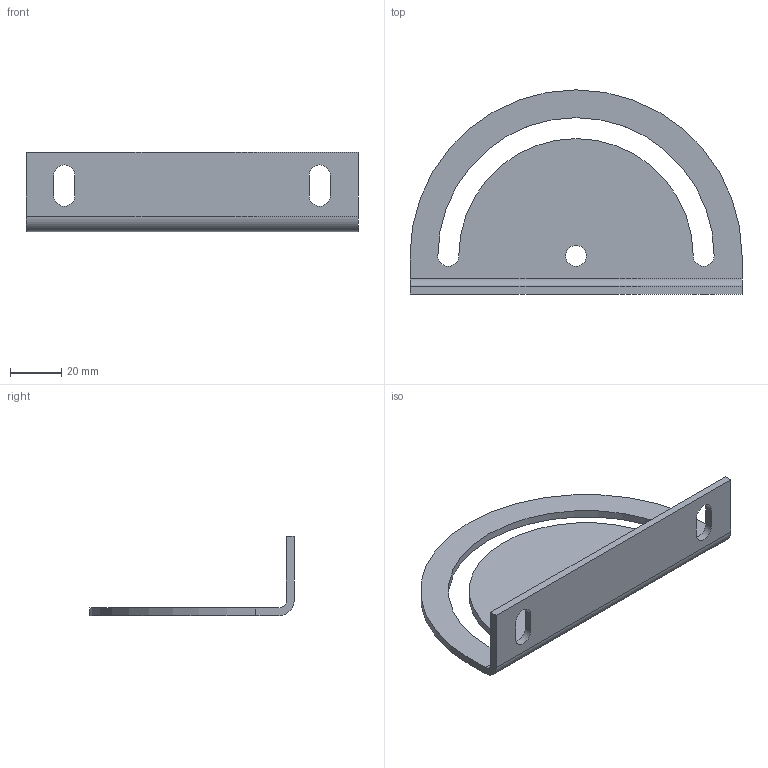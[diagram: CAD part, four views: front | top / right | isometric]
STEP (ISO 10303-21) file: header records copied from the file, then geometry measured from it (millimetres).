
FILE_DESCRIPTION((''),'2;1');
FILE_NAME('E:\catalogue and flyer\Profile catalogue 2015\Accessories JE info\Accessories-JE step file 31MAr16\JE-ACP3040-8.stp','2016-03-31T14:54:40',('h029'),(''),'Autodesk Inventor 11','Autodesk Inventor 11','');
FILE_SCHEMA(('AUTOMOTIVE_DESIGN { 1 0 10303 214 1 1 1 1 }'));
Length unit declared in the file: millimetre
Products named in the file (1): JE-ACP3040-8
Bounding box: 130 x 80 x 31 mm (x, y, z)
Volume: 31037 mm3; surface area: 23287.8 mm2
Topology: 1 solids, 1 shells, 25 faces, 69 edges, 46 vertices
Faces by surface type: plane 13, cylinder 12
Full cylindrical faces by diameter (mm): 8.2 x1
Entity records: 841 total; most frequent: DIRECTION 144, CARTESIAN_POINT 140, ORIENTED_EDGE 136, EDGE_CURVE 68, AXIS2_PLACEMENT_3D 50, VERTEX_POINT 46, VECTOR 44, LINE 44
